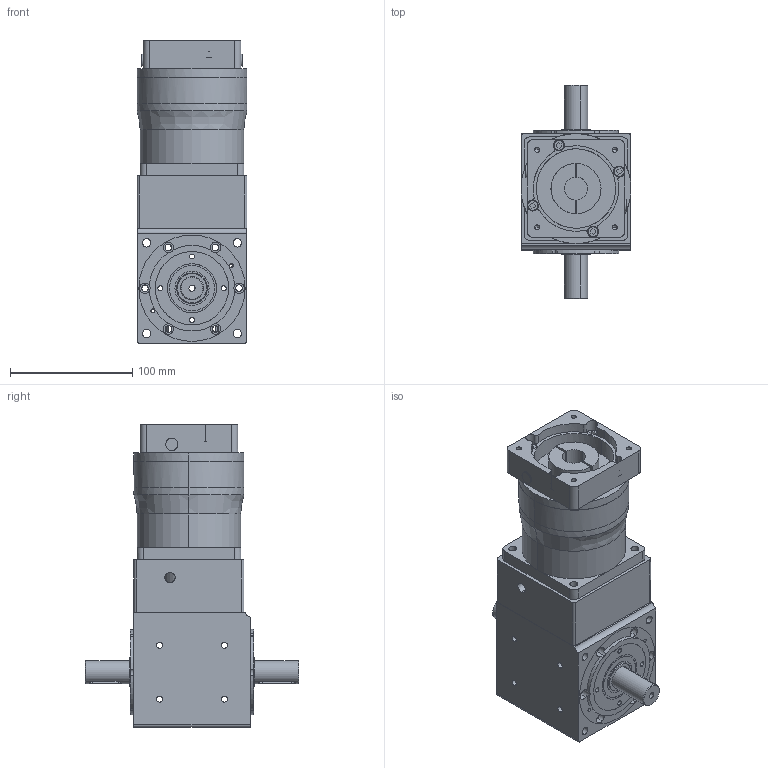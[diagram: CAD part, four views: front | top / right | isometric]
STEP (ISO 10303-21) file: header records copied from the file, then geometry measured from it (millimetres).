
FILE_DESCRIPTION (( 'STEP AP203' ), '1' );
FILE_NAME ('JKR90-L2双轴（配80伺服尺寸19-70-90-M6).STEP', '2021-01-16T04:24:53', ( '微软用户' ), ( '微软中国' ), 'SwSTEP 2.0', 'SolidWorks 2013', '' );
FILE_SCHEMA (( 'CONFIG_CONTROL_DESIGN' ));
Length unit declared in the file: millimetre
Products named in the file (3): JKR90-L1双轴（配80伺服尺寸19-70-90-M6; GF85A单级模型（19-35 70-3 4-5.5-90）; JKR90-L2双轴（配80伺服尺寸19-70-90-M6)
Assembly tree (2 placements, depth 2):
  JKR90-L2双轴（配80伺服尺寸19-70-90-M6)
    GF85A单级模型（19-35 70-3 4-5.5-90）
    JKR90-L1双轴（配80伺服尺寸19-70-90-M6
Bounding box: 90 x 175 x 247.5 mm (x, y, z)
Volume: 634778.3 mm3; surface area: 192452.1 mm2
Topology: 1 solids, 13 shells, 558 faces, 1545 edges, 1029 vertices
Faces by surface type: cylinder 330, plane 179, bspline 29, cone 20
Entity records: 25781 total; most frequent: CARTESIAN_POINT 11309, DIRECTION 2960, ORIENTED_EDGE 2844, EDGE_CURVE 1535, AXIS2_PLACEMENT_3D 1146, VERTEX_POINT 1029, EDGE_LOOP 692, VECTOR 668
